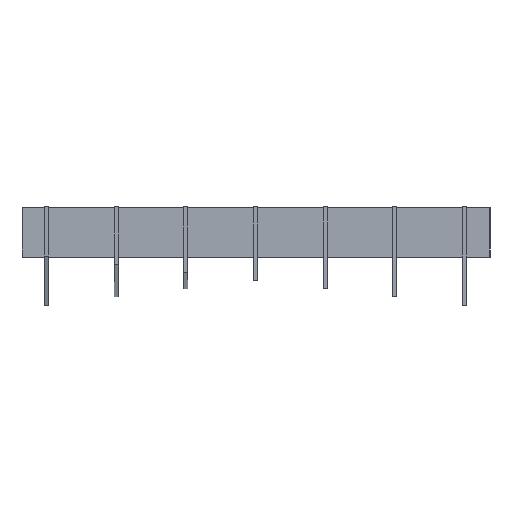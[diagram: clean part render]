
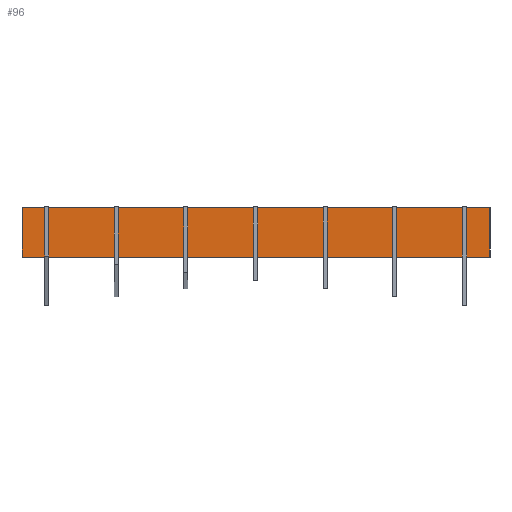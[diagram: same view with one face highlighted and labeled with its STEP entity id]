
A CAD part, left-side view. The second image highlights one B-rep face of the part: STEP entity #96.
In plain terms, the highlighted planar face has unit normal (-1, 0, 0).
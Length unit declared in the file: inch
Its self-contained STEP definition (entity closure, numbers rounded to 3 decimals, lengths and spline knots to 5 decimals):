
#96=ADVANCED_FACE('',(#162),#910,.T.);
#162=FACE_OUTER_BOUND('',#228,.T.);
#228=EDGE_LOOP('',(#480,#481,#482,#483));
#480=ORIENTED_EDGE('',*,*,#627,.F.);
#481=ORIENTED_EDGE('',*,*,#616,.T.);
#482=ORIENTED_EDGE('',*,*,#624,.T.);
#483=ORIENTED_EDGE('',*,*,#620,.F.);
#616=EDGE_CURVE('',#840,#841,#748,.T.);
#620=EDGE_CURVE('',#844,#845,#752,.T.);
#624=EDGE_CURVE('',#841,#845,#756,.T.);
#627=EDGE_CURVE('',#840,#844,#759,.T.);
#748=B_SPLINE_CURVE_WITH_KNOTS('',1,(#1537,#1538),.UNSPECIFIED.,.F.,.F.,
(2,2),(-13.,-7.),.UNSPECIFIED.);
#752=B_SPLINE_CURVE_WITH_KNOTS('',1,(#1545,#1546),.UNSPECIFIED.,.F.,.F.,
(2,2),(-13.,-7.),.UNSPECIFIED.);
#756=B_SPLINE_CURVE_WITH_KNOTS('',1,(#1553,#1554),.UNSPECIFIED.,.F.,.F.,
(2,2),(0.,57.11046),.UNSPECIFIED.);
#759=B_SPLINE_CURVE_WITH_KNOTS('',1,(#1559,#1560),.UNSPECIFIED.,.F.,.F.,
(2,2),(0.,57.11046),.UNSPECIFIED.);
#840=VERTEX_POINT('',#1529);
#841=VERTEX_POINT('',#1530);
#844=VERTEX_POINT('',#1533);
#845=VERTEX_POINT('',#1534);
#910=PLANE('',#1067);
#1067=AXIS2_PLACEMENT_3D('',#1525,#1136,$);
#1136=DIRECTION('',(-1.,0.,0.));
#1525=CARTESIAN_POINT('',(-1085.87377,-3.81876,393.21788));
#1529=CARTESIAN_POINT('',(-1085.87377,-3.81876,393.21788));
#1530=CARTESIAN_POINT('',(-1085.87377,-3.81876,399.21788));
#1533=CARTESIAN_POINT('',(-1085.87377,53.2917,393.21788));
#1534=CARTESIAN_POINT('',(-1085.87377,53.2917,399.21788));
#1537=CARTESIAN_POINT('',(-1085.87377,-3.81876,393.21788));
#1538=CARTESIAN_POINT('',(-1085.87377,-3.81876,399.21788));
#1545=CARTESIAN_POINT('',(-1085.87377,53.2917,393.21788));
#1546=CARTESIAN_POINT('',(-1085.87377,53.2917,399.21788));
#1553=CARTESIAN_POINT('',(-1085.87377,-3.81876,399.21788));
#1554=CARTESIAN_POINT('',(-1085.87377,53.2917,399.21788));
#1559=CARTESIAN_POINT('',(-1085.87377,-3.81876,393.21788));
#1560=CARTESIAN_POINT('',(-1085.87377,53.2917,393.21788));
